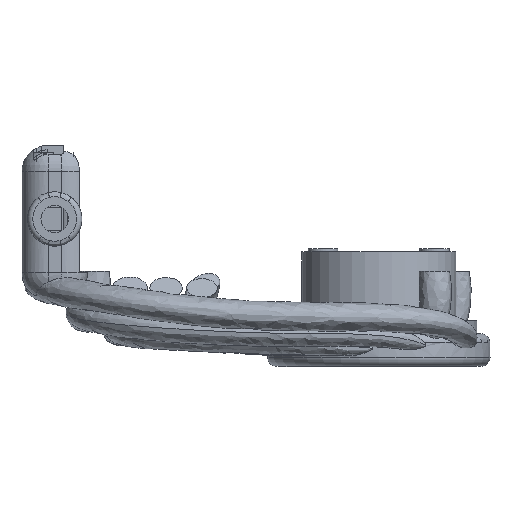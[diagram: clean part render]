
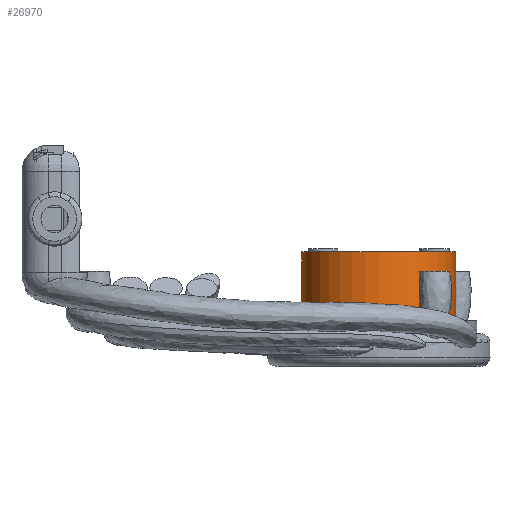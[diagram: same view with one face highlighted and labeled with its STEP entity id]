
A CAD part, top view. The second image highlights one B-rep face of the part: STEP entity #26970.
In plain terms, the highlighted cylindrical face has radius 23.5 mm (diameter 47 mm), a full revolution.
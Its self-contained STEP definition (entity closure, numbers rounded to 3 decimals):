
#25090 = PLANE('',#25091);
#25091 = AXIS2_PLACEMENT_3D('',#25092,#25093,#25094);
#25092 = CARTESIAN_POINT('',(31.,-31.,43.));
#25093 = DIRECTION('',(0.,1.,0.));
#25094 = DIRECTION('',(0.,-0.,1.));
#26728 = EDGE_CURVE('',#26729,#26729,#26731,.T.);
#26729 = VERTEX_POINT('',#26730);
#26730 = CARTESIAN_POINT('',(31.,-31.,66.5));
#26731 = SURFACE_CURVE('',#26732,(#26737,#26744),.PCURVE_S1.);
#26732 = CIRCLE('',#26733,23.5);
#26733 = AXIS2_PLACEMENT_3D('',#26734,#26735,#26736);
#26734 = CARTESIAN_POINT('',(31.,-31.,43.));
#26735 = DIRECTION('',(0.,1.,0.));
#26736 = DIRECTION('',(0.,-0.,1.));
#26737 = PCURVE('',#25090,#26738);
#26738 = DEFINITIONAL_REPRESENTATION('',(#26739),#26743);
#26739 = CIRCLE('',#26740,23.5);
#26740 = AXIS2_PLACEMENT_2D('',#26741,#26742);
#26741 = CARTESIAN_POINT('',(0.,0.));
#26742 = DIRECTION('',(1.,0.));
#26743 = ( GEOMETRIC_REPRESENTATION_CONTEXT(2) 
PARAMETRIC_REPRESENTATION_CONTEXT() REPRESENTATION_CONTEXT('2D SPACE',''
  ) );
#26744 = PCURVE('',#26745,#26750);
#26745 = CYLINDRICAL_SURFACE('',#26746,23.5);
#26746 = AXIS2_PLACEMENT_3D('',#26747,#26748,#26749);
#26747 = CARTESIAN_POINT('',(31.,-32.,43.));
#26748 = DIRECTION('',(0.,1.,0.));
#26749 = DIRECTION('',(0.,-0.,1.));
#26750 = DEFINITIONAL_REPRESENTATION('',(#26751),#26755);
#26751 = LINE('',#26752,#26753);
#26752 = CARTESIAN_POINT('',(0.,1.));
#26753 = VECTOR('',#26754,1.);
#26754 = DIRECTION('',(1.,0.));
#26755 = ( GEOMETRIC_REPRESENTATION_CONTEXT(2) 
PARAMETRIC_REPRESENTATION_CONTEXT() REPRESENTATION_CONTEXT('2D SPACE',''
  ) );
#26970 = ADVANCED_FACE('',(#26971),#26745,.T.);
#26971 = FACE_BOUND('',#26972,.T.);
#26972 = EDGE_LOOP('',(#26973,#26996,#27023,#27024));
#26973 = ORIENTED_EDGE('',*,*,#26974,.T.);
#26974 = EDGE_CURVE('',#26729,#26975,#26977,.T.);
#26975 = VERTEX_POINT('',#26976);
#26976 = CARTESIAN_POINT('',(31.,-10.,66.5));
#26977 = SEAM_CURVE('',#26978,(#26982,#26989),.PCURVE_S1.);
#26978 = LINE('',#26979,#26980);
#26979 = CARTESIAN_POINT('',(31.,-32.,66.5));
#26980 = VECTOR('',#26981,1.);
#26981 = DIRECTION('',(0.,1.,0.));
#26982 = PCURVE('',#26745,#26983);
#26983 = DEFINITIONAL_REPRESENTATION('',(#26984),#26988);
#26984 = LINE('',#26985,#26986);
#26985 = CARTESIAN_POINT('',(6.283,0.));
#26986 = VECTOR('',#26987,1.);
#26987 = DIRECTION('',(0.,1.));
#26988 = ( GEOMETRIC_REPRESENTATION_CONTEXT(2) 
PARAMETRIC_REPRESENTATION_CONTEXT() REPRESENTATION_CONTEXT('2D SPACE',''
  ) );
#26989 = PCURVE('',#26745,#26990);
#26990 = DEFINITIONAL_REPRESENTATION('',(#26991),#26995);
#26991 = LINE('',#26992,#26993);
#26992 = CARTESIAN_POINT('',(0.,0.));
#26993 = VECTOR('',#26994,1.);
#26994 = DIRECTION('',(0.,1.));
#26995 = ( GEOMETRIC_REPRESENTATION_CONTEXT(2) 
PARAMETRIC_REPRESENTATION_CONTEXT() REPRESENTATION_CONTEXT('2D SPACE',''
  ) );
#26996 = ORIENTED_EDGE('',*,*,#26997,.F.);
#26997 = EDGE_CURVE('',#26975,#26975,#26998,.T.);
#26998 = SURFACE_CURVE('',#26999,(#27004,#27011),.PCURVE_S1.);
#26999 = CIRCLE('',#27000,23.5);
#27000 = AXIS2_PLACEMENT_3D('',#27001,#27002,#27003);
#27001 = CARTESIAN_POINT('',(31.,-10.,43.));
#27002 = DIRECTION('',(0.,1.,0.));
#27003 = DIRECTION('',(0.,-0.,1.));
#27004 = PCURVE('',#26745,#27005);
#27005 = DEFINITIONAL_REPRESENTATION('',(#27006),#27010);
#27006 = LINE('',#27007,#27008);
#27007 = CARTESIAN_POINT('',(0.,22.));
#27008 = VECTOR('',#27009,1.);
#27009 = DIRECTION('',(1.,0.));
#27010 = ( GEOMETRIC_REPRESENTATION_CONTEXT(2) 
PARAMETRIC_REPRESENTATION_CONTEXT() REPRESENTATION_CONTEXT('2D SPACE',''
  ) );
#27011 = PCURVE('',#27012,#27017);
#27012 = PLANE('',#27013);
#27013 = AXIS2_PLACEMENT_3D('',#27014,#27015,#27016);
#27014 = CARTESIAN_POINT('',(31.,-10.,43.));
#27015 = DIRECTION('',(0.,1.,0.));
#27016 = DIRECTION('',(0.,-0.,1.));
#27017 = DEFINITIONAL_REPRESENTATION('',(#27018),#27022);
#27018 = CIRCLE('',#27019,23.5);
#27019 = AXIS2_PLACEMENT_2D('',#27020,#27021);
#27020 = CARTESIAN_POINT('',(0.,0.));
#27021 = DIRECTION('',(1.,0.));
#27022 = ( GEOMETRIC_REPRESENTATION_CONTEXT(2) 
PARAMETRIC_REPRESENTATION_CONTEXT() REPRESENTATION_CONTEXT('2D SPACE',''
  ) );
#27023 = ORIENTED_EDGE('',*,*,#26974,.F.);
#27024 = ORIENTED_EDGE('',*,*,#26728,.T.);
